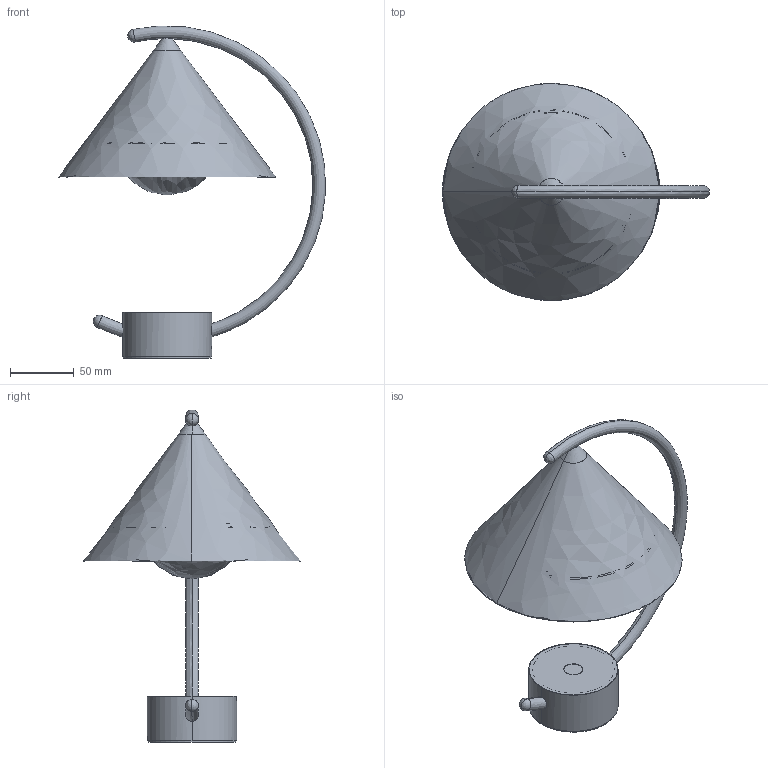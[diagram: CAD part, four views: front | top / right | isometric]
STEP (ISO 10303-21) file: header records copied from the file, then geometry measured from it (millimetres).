
FILE_DESCRIPTION(/* description */ (''),/* implementation_level */ '2;1');
FILE_NAME(/* name */ 'Meridian_lamp_Ferm_Living_3D',/* time_stamp */ '2021-09-02T13:10:35+02:00',/* author */ (''),/* organization */ (''),/* preprocessor_version */ 'ST-DEVELOPER v16.5',/* originating_system */ '',/* authorisation */ '');
FILE_SCHEMA (('CONFIG_CONTROL_DESIGN'));
Products named in the file (1): Document
Bounding box: 209.31 x 170.42 x 260.3 mm (x, y, z)
Volume: 960291.7 mm3; surface area: 266551.1 mm2
Topology: 23 solids, 29 shells, 618 faces, 1677 edges, 1106 vertices
Faces by surface type: cylinder 291, plane 167, bspline 160
Entity records: 200930 total; most frequent: CARTESIAN_POINT 190750, ORIENTED_EDGE 3048, EDGE_CURVE 1542, B_SPLINE_CURVE_WITH_KNOTS 1038, VERTEX_POINT 985, EDGE_LOOP 631, ADVANCED_FACE 600, FACE_OUTER_BOUND 600
